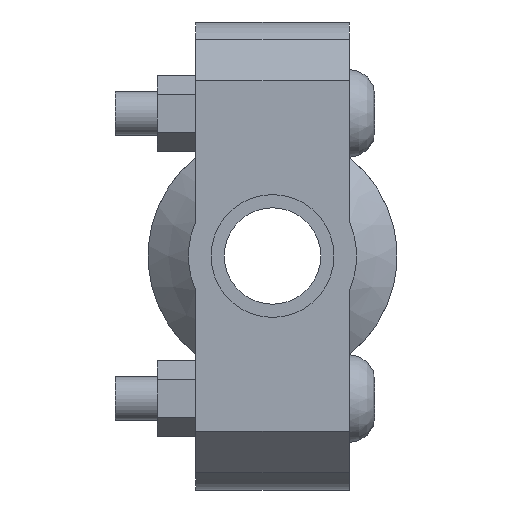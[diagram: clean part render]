
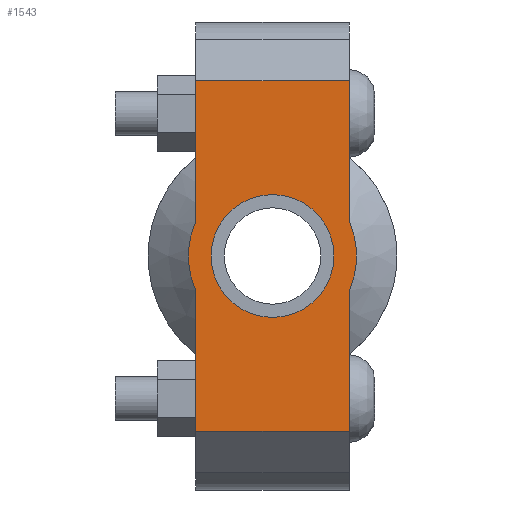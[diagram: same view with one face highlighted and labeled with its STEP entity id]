
A CAD part, left-side view. The second image highlights one B-rep face of the part: STEP entity #1543.
In plain terms, the highlighted planar face has unit normal (-1, 0, 0) as drawn and (0, 0, 1) by its records, which use the part's own axes.
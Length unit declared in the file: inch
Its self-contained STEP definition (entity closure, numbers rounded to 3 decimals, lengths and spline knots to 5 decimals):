
#154=LINE('',#2651,#249);
#169=LINE('',#2710,#264);
#177=LINE('',#2740,#272);
#179=LINE('',#2743,#274);
#180=LINE('',#2748,#275);
#181=LINE('',#2749,#276);
#249=VECTOR('',#2141,0.3937);
#264=VECTOR('',#2176,0.3937);
#272=VECTOR('',#2196,0.3937);
#274=VECTOR('',#2200,0.3937);
#275=VECTOR('',#2205,0.3937);
#276=VECTOR('',#2206,0.3937);
#336=FACE_BOUND('',#495,.T.);
#396=FACE_OUTER_BOUND('',#494,.T.);
#494=EDGE_LOOP('',(#1238,#1239,#1240,#1241,#1242,#1243,#1244,#1245));
#495=EDGE_LOOP('',(#1246));
#600=CIRCLE('',#1806,0.719);
#601=CIRCLE('',#1807,0.719);
#602=CIRCLE('',#1808,0.525);
#709=VERTEX_POINT('',#2648);
#710=VERTEX_POINT('',#2650);
#731=VERTEX_POINT('',#2705);
#732=VERTEX_POINT('',#2709);
#741=VERTEX_POINT('',#2735);
#742=VERTEX_POINT('',#2739);
#743=VERTEX_POINT('',#2745);
#744=VERTEX_POINT('',#2747);
#745=VERTEX_POINT('',#2751);
#879=EDGE_CURVE('',#710,#709,#154,.T.);
#904=EDGE_CURVE('',#732,#731,#169,.T.);
#917=EDGE_CURVE('',#742,#741,#177,.T.);
#919=EDGE_CURVE('',#742,#709,#179,.T.);
#920=EDGE_CURVE('',#741,#743,#600,.T.);
#921=EDGE_CURVE('',#743,#744,#180,.T.);
#922=EDGE_CURVE('',#732,#744,#181,.T.);
#923=EDGE_CURVE('',#731,#710,#601,.T.);
#924=EDGE_CURVE('',#745,#745,#602,.T.);
#1238=ORIENTED_EDGE('',*,*,#919,.F.);
#1239=ORIENTED_EDGE('',*,*,#917,.T.);
#1240=ORIENTED_EDGE('',*,*,#920,.T.);
#1241=ORIENTED_EDGE('',*,*,#921,.T.);
#1242=ORIENTED_EDGE('',*,*,#922,.F.);
#1243=ORIENTED_EDGE('',*,*,#904,.T.);
#1244=ORIENTED_EDGE('',*,*,#923,.T.);
#1245=ORIENTED_EDGE('',*,*,#879,.T.);
#1246=ORIENTED_EDGE('',*,*,#924,.T.);
#1395=PLANE('',#1805);
#1543=ADVANCED_FACE('',(#396,#336),#1395,.T.);
#1805=AXIS2_PLACEMENT_3D('',#2744,#2201,#2202);
#1806=AXIS2_PLACEMENT_3D('',#2746,#2203,#2204);
#1807=AXIS2_PLACEMENT_3D('',#2750,#2207,#2208);
#1808=AXIS2_PLACEMENT_3D('',#2752,#2209,#2210);
#2141=DIRECTION('',(1.,0.,0.));
#2176=DIRECTION('',(1.,0.,0.));
#2196=DIRECTION('',(-1.,0.,0.));
#2200=DIRECTION('',(0.,-1.,0.));
#2201=DIRECTION('center_axis',(0.,0.,1.));
#2202=DIRECTION('ref_axis',(-1.,0.,0.));
#2203=DIRECTION('center_axis',(0.,0.,1.));
#2204=DIRECTION('ref_axis',(1.,0.,0.));
#2205=DIRECTION('',(-1.,0.,0.));
#2206=DIRECTION('',(0.,1.,0.));
#2207=DIRECTION('center_axis',(0.,0.,1.));
#2208=DIRECTION('ref_axis',(1.,0.,0.));
#2209=DIRECTION('center_axis',(0.,0.,-1.));
#2210=DIRECTION('ref_axis',(1.,0.,0.));
#2648=CARTESIAN_POINT('',(1.5,-0.656,0.875));
#2650=CARTESIAN_POINT('',(0.29432,-0.656,0.875));
#2651=CARTESIAN_POINT('',(-2.,-0.656,0.875));
#2705=CARTESIAN_POINT('',(-0.29432,-0.656,0.875));
#2709=CARTESIAN_POINT('',(-1.5,-0.656,0.875));
#2710=CARTESIAN_POINT('',(-2.,-0.656,0.875));
#2735=CARTESIAN_POINT('',(0.29432,0.656,0.875));
#2739=CARTESIAN_POINT('',(1.5,0.656,0.875));
#2740=CARTESIAN_POINT('',(2.,0.656,0.875));
#2743=CARTESIAN_POINT('',(1.5,-0.328,0.875));
#2744=CARTESIAN_POINT('Origin',(0.,0.,
0.875));
#2745=CARTESIAN_POINT('',(-0.29432,0.656,0.875));
#2746=CARTESIAN_POINT('Origin',(0.,0.,0.875));
#2747=CARTESIAN_POINT('',(-1.5,0.656,0.875));
#2748=CARTESIAN_POINT('',(2.,0.656,0.875));
#2749=CARTESIAN_POINT('',(-1.5,0.328,0.875));
#2750=CARTESIAN_POINT('Origin',(0.,0.,0.875));
#2751=CARTESIAN_POINT('',(-0.525,0.,0.875));
#2752=CARTESIAN_POINT('Origin',(0.,0.,0.875));
